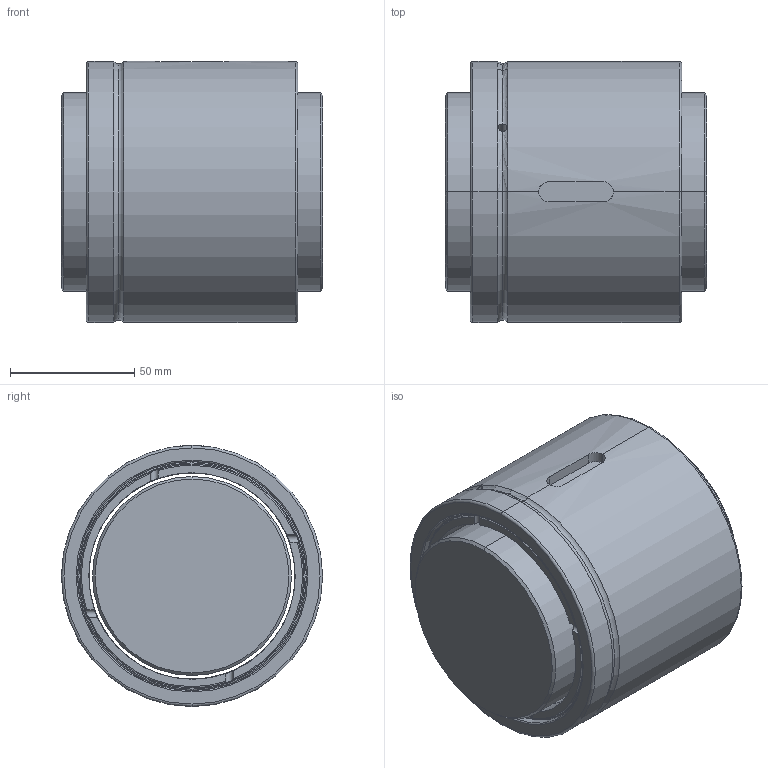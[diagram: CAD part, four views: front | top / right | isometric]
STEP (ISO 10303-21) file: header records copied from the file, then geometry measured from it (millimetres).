
FILE_DESCRIPTION (( 'STEP AP203' ), '1' );
FILE_NAME ('SCIR08010T4-C.STEP', '2020-06-17T07:45:13', ( '' ), ( '' ), 'SwSTEP 2.0', 'SolidWorks 2013', '' );
FILE_SCHEMA (( 'CONFIG_CONTROL_DESIGN' ));
Length unit declared in the file: millimetre
Products named in the file (1): SCIR08010T4-C
Bounding box: 105 x 105 x 105 mm (x, y, z)
Volume: 793476.1 mm3; surface area: 103288.6 mm2
Topology: 2 solids, 2 shells, 92 faces, 218 edges, 135 vertices
Faces by surface type: cylinder 37, torus 30, plane 21, cone 4
Entity records: 3257 total; most frequent: CARTESIAN_POINT 1024, DIRECTION 486, ORIENTED_EDGE 436, EDGE_CURVE 218, AXIS2_PLACEMENT_3D 215, VERTEX_POINT 135, CIRCLE 122, EDGE_LOOP 101
